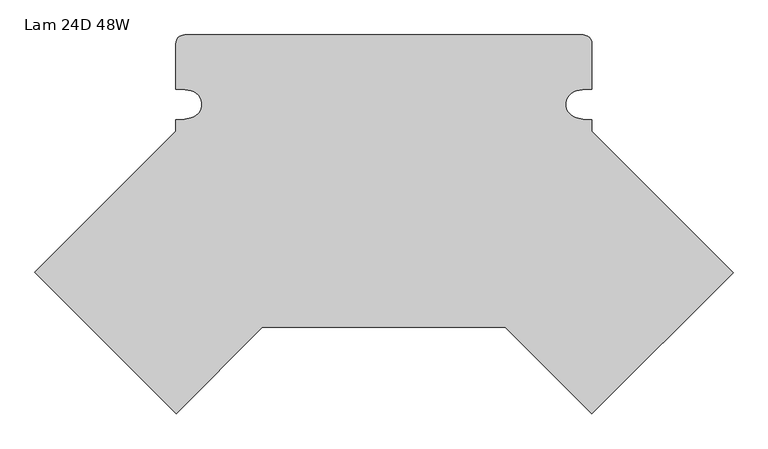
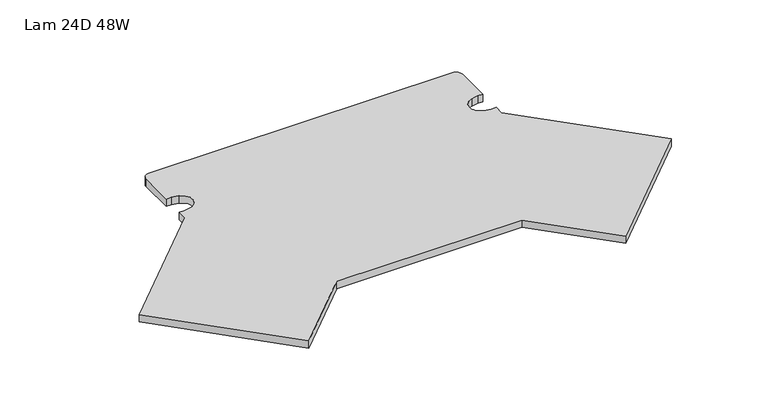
"""IFC4 building model written with IfcOpenShell, lengths in millimetres: furniture geometry, HermanMiller_Ethospace_EWS71_F_Sq-EdgeDouble135TransactionWorkSurface_FrameAttached : Lam 24D 48W."""

from ifc_helpers import new_model, si_unit, point, frame, frame_2d, origin, place, context, project, spatial, polyline, circle_curve, trimmed, segment, composite_curve, outline, extrude, source, transform, mapped, element, save


def lam_24d_48w_0793b51f(model_context):
    return source(origin(), model_context, "Body", "SweptSolid", [
        extrude(outline(composite_curve([segment(polyline([(760.476, 269.1773502), (741.4057643, 269.1773502), (715.338319, 264.2798651)]), True, "CONTINUOUS"), segment(trimmed(circle_curve(frame_2d((724.9839399, 224.7311515)), 40.7079691), [point((715.338319, 264.2798651))], [point((715.338319, 185.1824379))], True, "CARTESIAN"), True, "CONTINUOUS"), segment(polyline([(715.338319, 185.1824379), (741.4259708, 180.2811496), (760.476, 180.2811496), (760.476, 145.664091), (1173.8659588, -267.7258678), (760.7741772, -680.8176493), (507.7052278, -427.7487), (-202.9198431, -427.7487), (-454.9470827, -679.7759396), (-868.0388643, -266.6841581), (-455.676, 145.6787062), (-455.676, 180.2811496), (-436.6259935, 180.2811496), (-410.5382849, 185.1824379)]), True, "CONTINUOUS"), segment(trimmed(circle_curve(frame_2d((-420.1825505, 224.7311515)), 40.707648), [point((-410.5382849, 185.1824379))], [point((-410.5382849, 264.2798651))], True, "CARTESIAN"), True, "CONTINUOUS"), segment(polyline([(-410.5382849, 264.2798651), (-436.6057869, 269.1773502), (-455.676, 269.1773502), (-455.676, 402.3660279)]), True, "CONTINUOUS"), segment(trimmed(circle_curve(frame_2d((-430.2933279, 402.3660279)), 25.3826721), [point((-455.676, 402.3660279))], [point((-430.2933279, 427.7487))], False, "CARTESIAN"), True, "CONTINUOUS"), segment(polyline([(-430.2933279, 427.7487), (735.0933279, 427.7487)]), True, "CONTINUOUS"), segment(trimmed(circle_curve(frame_2d((735.0933279, 402.3660279)), 25.3826721), [point((735.0933279, 427.7487))], [point((760.476, 402.3660279))], False, "CARTESIAN"), True, "CONTINUOUS"), segment(polyline([(760.476, 402.3660279), (760.476, 269.1773502)]), True, "CONTINUOUS")], self_intersect=False)), frame((0.0, 0.0, 706.7296), z_axis=(0.0, 0.0, 1.0), x_axis=(1.0, 0.0, 0.0)), (0.0, 0.0, 1.0), 29.8704),
    ])


if __name__ == "__main__":
    model = new_model("IFC4")
    model_context = context("Model", 3, world=origin())
    ifc_project = project(units=[si_unit("LENGTHUNIT", "METRE", prefix="MILLI")], contexts=[model_context])
    site = spatial("IfcSite", under=ifc_project)
    building = spatial("IfcBuilding", under=site)
    placement = place(None, origin())
    lam_24d_48w_shape = lam_24d_48w_0793b51f(model_context)
    element("IfcFurniture", 1, ObjectType="HermanMiller_Ethospace_EWS71_F_Sq-EdgeDouble135TransactionWorkSurface_FrameAttached : Lam 24D 48W", at=placement, inside=building, context=model_context, shape_type="MappedRepresentation", body=[
        mapped(lam_24d_48w_shape, transform((0.0, 0.0, 0.0), x_axis=(1.0, 0.0, 0.0), y_axis=(0.0, 1.0, 0.0), z_axis=(0.0, 0.0, 1.0))),
    ])
    save(model, "model.ifc")
